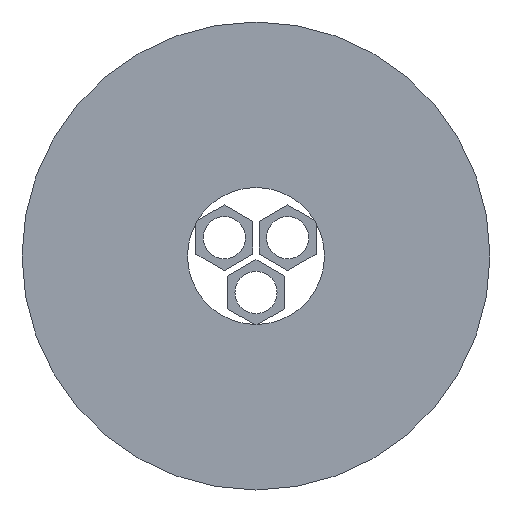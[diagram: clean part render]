
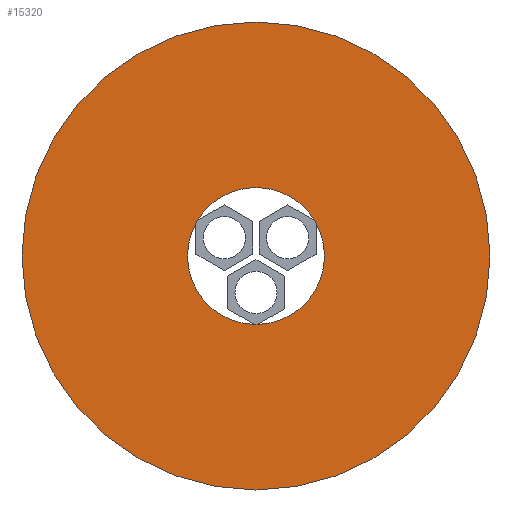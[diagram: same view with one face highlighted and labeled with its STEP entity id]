
A CAD part, front view. The second image highlights one B-rep face of the part: STEP entity #15320.
In plain terms, the highlighted planar face has unit normal (0, -1, 0).
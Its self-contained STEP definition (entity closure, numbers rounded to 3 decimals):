
#120=CARTESIAN_POINT('',(-102.693,31.409,0.));
#130=VERTEX_POINT('',#120);
#160=CARTESIAN_POINT('',(-96.193,31.409,0.));
#170=DIRECTION('',(0.,-1.,0.));
#180=DIRECTION('',(-1.,0.,0.));
#190=AXIS2_PLACEMENT_3D('',#160,#170,#180);
#200=CIRCLE('',#190,6.5);
#210=CARTESIAN_POINT('',(-89.693,31.409,
0.));
#220=VERTEX_POINT('',#210);
#230=EDGE_CURVE('',#220,#130,#200,.T.);
#14860=CARTESIAN_POINT('',(-118.393,31.409,0.));
#14870=VERTEX_POINT('',#14860);
#14900=CARTESIAN_POINT('',(-96.193,31.409,0.));
#14910=DIRECTION('',(0.,-1.,0.));
#14920=DIRECTION('',(1.,0.,0.));
#14930=AXIS2_PLACEMENT_3D('',#14900,#14910,#14920);
#14940=CIRCLE('',#14930,22.2);
#14950=CARTESIAN_POINT('',(-73.993,31.409,
0.));
#14960=VERTEX_POINT('',#14950);
#14970=EDGE_CURVE('',#14870,#14960,#14940,.T.);
#15170=CARTESIAN_POINT('',(-85.093,31.409,
0.));
#15180=DIRECTION('',(0.,-1.,0.));
#15190=DIRECTION('',(1.,0.,0.));
#15200=AXIS2_PLACEMENT_3D('',#15170,#15180,#15190);
#15210=PLANE('',#15200);
#15220=EDGE_CURVE('',#14960,#14870,#14940,.T.);
#15230=ORIENTED_EDGE('',*,*,#15220,.T.);
#15240=ORIENTED_EDGE('',*,*,#14970,.T.);
#15250=EDGE_LOOP('',(#15240,#15230));
#15260=FACE_OUTER_BOUND('',#15250,.T.);
#15270=EDGE_CURVE('',#130,#220,#200,.T.);
#15280=ORIENTED_EDGE('',*,*,#15270,.F.);
#15290=ORIENTED_EDGE('',*,*,#230,.F.);
#15300=EDGE_LOOP('',(#15290,#15280));
#15310=FACE_BOUND('',#15300,.T.);
#15320=ADVANCED_FACE('',(#15260,#15310),#15210,.T.);
